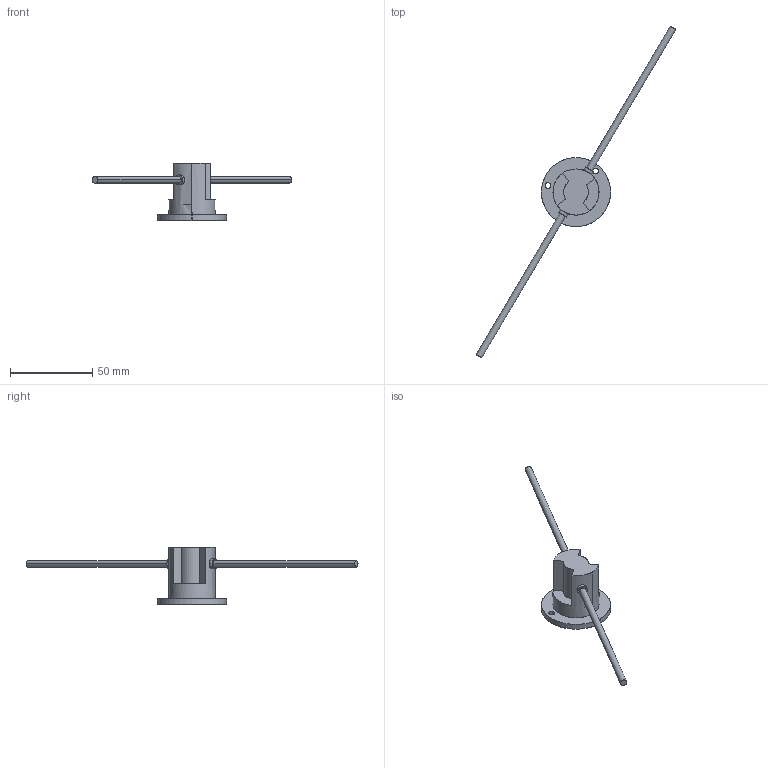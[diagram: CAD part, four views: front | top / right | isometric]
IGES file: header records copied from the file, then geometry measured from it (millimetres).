
Start section: SolidWorks IGES file using analytic representation for surfaces
Global section: file name: C:\Users\Toshiba\Desktop\FU-30PRN.IGS; native system: SolidWorks 2014; preprocessor: SolidWorks 2014; author: Toshiba; date: 160621.090805; units: metre
Bounding box: 121.38 x 201.82 x 34.7 mm (x, y, z)
Surface area: 10104.5 mm2 (no closed solid volume)
Topology: 0 solids, 0 shells, 51 faces, 1172 edges, 1172 vertices
Faces by surface type: revolution 33, bspline 18
